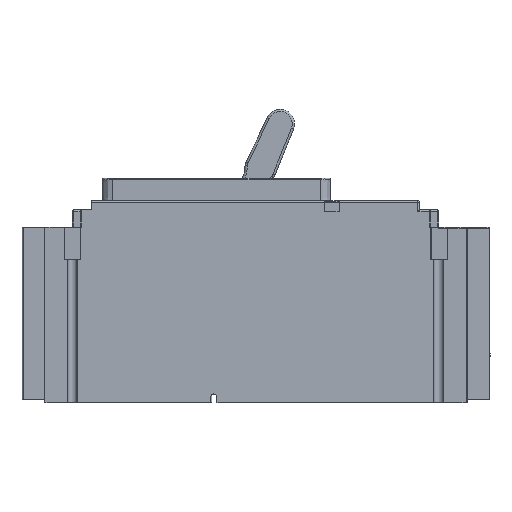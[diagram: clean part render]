
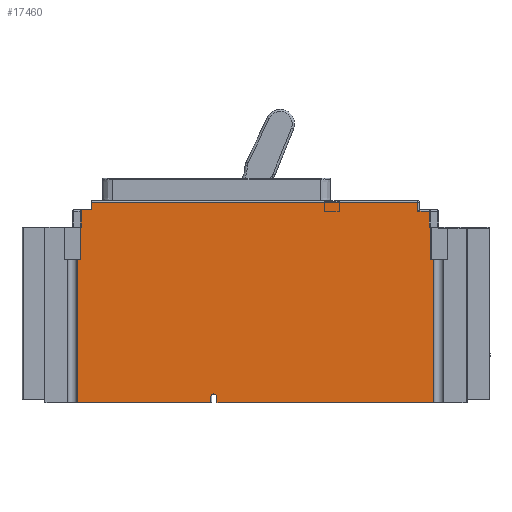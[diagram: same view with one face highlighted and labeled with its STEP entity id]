
A CAD part, left-side view. The second image highlights one B-rep face of the part: STEP entity #17460.
In plain terms, the highlighted planar face has unit normal (-1, 0, 0).
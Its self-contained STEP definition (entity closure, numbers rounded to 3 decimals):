
#208=DIRECTION('',(0.,-1.,0.));
#209=VECTOR('',#208,72.704);
#210=CARTESIAN_POINT('',(0.,224.954,0.));
#211=LINE('',#210,#209);
#458=DIRECTION('',(0.,-1.,0.));
#459=VECTOR('',#458,118.204);
#460=CARTESIAN_POINT('',(0.,148.75,0.));
#461=LINE('',#460,#459);
#480=CARTESIAN_POINT('',(0.,150.5,2.918));
#481=DIRECTION('',(1.,0.,0.));
#482=DIRECTION('',(0.,1.,0.));
#483=AXIS2_PLACEMENT_3D('',#480,#481,#482);
#513=DIRECTION('',(0.,0.,1.));
#514=VECTOR('',#513,8.7);
#515=CARTESIAN_POINT('',(0.,33.,95.5));
#516=LINE('',#515,#514);
#517=DIRECTION('',(0.,-1.,0.));
#518=VECTOR('',#517,0.5);
#519=CARTESIAN_POINT('',(0.,33.,95.5));
#520=LINE('',#519,#518);
#521=DIRECTION('',(0.,0.,1.));
#522=VECTOR('',#521,17.5);
#523=CARTESIAN_POINT('',(0.,32.5,78.));
#524=LINE('',#523,#522);
#525=DIRECTION('',(0.,0.,1.));
#526=VECTOR('',#525,2.918);
#527=CARTESIAN_POINT('',(0.,148.75,0.));
#528=LINE('',#527,#526);
#529=DIRECTION('',(0.,0.,1.));
#530=VECTOR('',#529,2.918);
#531=CARTESIAN_POINT('',(0.,152.25,0.));
#532=LINE('',#531,#530);
#533=DIRECTION('',(0.,0.,1.));
#534=VECTOR('',#533,78.);
#535=CARTESIAN_POINT('',(0.,224.954,0.));
#536=LINE('',#535,#534);
#537=DIRECTION('',(0.,-1.,0.));
#538=VECTOR('',#537,1.954);
#539=CARTESIAN_POINT('',(0.,224.954,78.));
#540=LINE('',#539,#538);
#541=DIRECTION('',(0.,0.,1.));
#542=VECTOR('',#541,17.5);
#543=CARTESIAN_POINT('',(0.,223.,78.));
#544=LINE('',#543,#542);
#545=DIRECTION('',(0.,-1.,0.));
#546=VECTOR('',#545,0.25);
#547=CARTESIAN_POINT('',(0.,223.,95.5));
#548=LINE('',#547,#546);
#549=DIRECTION('',(0.,0.,1.));
#550=VECTOR('',#549,8.7);
#551=CARTESIAN_POINT('',(0.,222.75,95.5));
#552=LINE('',#551,#550);
#553=CARTESIAN_POINT('',(0.,221.95,104.2));
#554=DIRECTION('',(-1.,0.,0.));
#555=DIRECTION('',(0.,0.,1.));
#556=AXIS2_PLACEMENT_3D('',#553,#554,#555);
#558=DIRECTION('',(0.,-1.,0.));
#559=VECTOR('',#558,4.643);
#560=CARTESIAN_POINT('',(0.,221.95,105.));
#561=LINE('',#560,#559);
#562=DIRECTION('',(0.,0.,-1.));
#563=VECTOR('',#562,4.2);
#564=CARTESIAN_POINT('',(0.,217.307,109.2));
#565=LINE('',#564,#563);
#566=DIRECTION('',(0.,1.,0.));
#567=VECTOR('',#566,178.007);
#568=CARTESIAN_POINT('',(0.,39.3,109.2));
#569=LINE('',#568,#567);
#570=DIRECTION('',(0.,0.,1.));
#571=VECTOR('',#570,5.);
#572=CARTESIAN_POINT('',(0.,39.3,104.2));
#573=LINE('',#572,#571);
#574=DIRECTION('',(0.,1.,0.));
#575=VECTOR('',#574,6.3);
#576=CARTESIAN_POINT('',(0.,33.,104.2));
#577=LINE('',#576,#575);
#3426=CARTESIAN_POINT('',(0.,33.,104.2));
#6263=DIRECTION('',(0.,0.,1.));
#6264=VECTOR('',#6263,78.);
#6265=CARTESIAN_POINT('',(0.,30.546,0.));
#6266=LINE('',#6265,#6264);
#6267=DIRECTION('',(0.,1.,0.));
#6268=VECTOR('',#6267,1.954);
#6269=CARTESIAN_POINT('',(0.,30.546,78.));
#6270=LINE('',#6269,#6268);
#13385=CARTESIAN_POINT('',(0.,30.546,0.));
#13387=VERTEX_POINT('',#13385);
#13403=CARTESIAN_POINT('',(0.,224.954,0.));
#13404=VERTEX_POINT('',#13403);
#13418=CARTESIAN_POINT('',(0.,217.307,105.));
#13420=VERTEX_POINT('',#13418);
#13458=CARTESIAN_POINT('',(0.,222.75,95.5));
#13459=VERTEX_POINT('',#13458);
#14157=CARTESIAN_POINT('',(0.,223.,78.));
#14158=VERTEX_POINT('',#14157);
#14169=CARTESIAN_POINT('',(0.,223.,95.5));
#14170=VERTEX_POINT('',#14169);
#16074=CARTESIAN_POINT('',(0.,148.75,2.918));
#16076=VERTEX_POINT('',#16074);
#16078=CARTESIAN_POINT('',(0.,152.25,2.918));
#16080=VERTEX_POINT('',#16078);
#16085=CARTESIAN_POINT('',(0.,148.75,0.));
#16087=VERTEX_POINT('',#16085);
#16089=CARTESIAN_POINT('',(0.,152.25,0.));
#16091=VERTEX_POINT('',#16089);
#16215=CARTESIAN_POINT('',(0.,39.3,104.2));
#16216=CARTESIAN_POINT('',(0.,39.3,109.2));
#16217=VERTEX_POINT('',#16215);
#16218=VERTEX_POINT('',#16216);
#16221=CARTESIAN_POINT('',(0.,217.307,109.2));
#16222=VERTEX_POINT('',#16221);
#16229=CARTESIAN_POINT('',(0.,221.95,105.));
#16230=CARTESIAN_POINT('',(0.,222.75,104.2));
#16231=VERTEX_POINT('',#16229);
#16232=VERTEX_POINT('',#16230);
#16728=CARTESIAN_POINT('',(0.,30.546,78.));
#16730=VERTEX_POINT('',#16728);
#16731=CARTESIAN_POINT('',(0.,224.954,78.));
#16732=VERTEX_POINT('',#16731);
#17019=VERTEX_POINT('',#3426);
#17020=CARTESIAN_POINT('',(0.,33.,95.5));
#17021=VERTEX_POINT('',#17020);
#17024=CARTESIAN_POINT('',(0.,32.5,95.5));
#17025=VERTEX_POINT('',#17024);
#17030=CARTESIAN_POINT('',(0.,32.5,78.));
#17031=VERTEX_POINT('',#17030);
#17416=CARTESIAN_POINT('',(0.,224.954,0.));
#17417=DIRECTION('',(-1.,0.,0.));
#17418=DIRECTION('',(0.,-1.,0.));
#17419=AXIS2_PLACEMENT_3D('',#17416,#17417,#17418);
#17420=PLANE('',#17419);
#17422=ORIENTED_EDGE('',*,*,#17421,.F.);
#17424=ORIENTED_EDGE('',*,*,#17423,.T.);
#17426=ORIENTED_EDGE('',*,*,#17425,.F.);
#17428=ORIENTED_EDGE('',*,*,#17427,.F.);
#17430=ORIENTED_EDGE('',*,*,#17429,.F.);
#17431=ORIENTED_EDGE('',*,*,#17342,.F.);
#17432=ORIENTED_EDGE('',*,*,#17409,.T.);
#17433=ORIENTED_EDGE('',*,*,#17374,.F.);
#17434=ORIENTED_EDGE('',*,*,#17361,.F.);
#17435=ORIENTED_EDGE('',*,*,#17206,.F.);
#17437=ORIENTED_EDGE('',*,*,#17436,.T.);
#17439=ORIENTED_EDGE('',*,*,#17438,.T.);
#17441=ORIENTED_EDGE('',*,*,#17440,.T.);
#17443=ORIENTED_EDGE('',*,*,#17442,.T.);
#17445=ORIENTED_EDGE('',*,*,#17444,.T.);
#17447=ORIENTED_EDGE('',*,*,#17446,.F.);
#17449=ORIENTED_EDGE('',*,*,#17448,.T.);
#17451=ORIENTED_EDGE('',*,*,#17450,.F.);
#17453=ORIENTED_EDGE('',*,*,#17452,.F.);
#17455=ORIENTED_EDGE('',*,*,#17454,.F.);
#17457=ORIENTED_EDGE('',*,*,#17456,.F.);
#17458=EDGE_LOOP('',(#17422,#17424,#17426,#17428,#17430,#17431,#17432,#17433,
#17434,#17435,#17437,#17439,#17441,#17443,#17445,#17447,#17449,#17451,#17453,
#17455,#17457));
#17459=FACE_OUTER_BOUND('',#17458,.F.);
#17460=ADVANCED_FACE('',(#17459),#17420,.T.);
#484=CIRCLE('',#483,1.75);
#557=CIRCLE('',#556,0.8);
#17206=EDGE_CURVE('',#13404,#16091,#211,.T.);
#17342=EDGE_CURVE('',#16087,#13387,#461,.T.);
#17361=EDGE_CURVE('',#16091,#16080,#532,.T.);
#17374=EDGE_CURVE('',#16080,#16076,#484,.T.);
#17409=EDGE_CURVE('',#16087,#16076,#528,.T.);
#17421=EDGE_CURVE('',#17021,#17019,#516,.T.);
#17423=EDGE_CURVE('',#17021,#17025,#520,.T.);
#17425=EDGE_CURVE('',#17031,#17025,#524,.T.);
#17427=EDGE_CURVE('',#16730,#17031,#6270,.T.);
#17429=EDGE_CURVE('',#13387,#16730,#6266,.T.);
#17436=EDGE_CURVE('',#13404,#16732,#536,.T.);
#17438=EDGE_CURVE('',#16732,#14158,#540,.T.);
#17440=EDGE_CURVE('',#14158,#14170,#544,.T.);
#17442=EDGE_CURVE('',#14170,#13459,#548,.T.);
#17444=EDGE_CURVE('',#13459,#16232,#552,.T.);
#17446=EDGE_CURVE('',#16231,#16232,#557,.T.);
#17448=EDGE_CURVE('',#16231,#13420,#561,.T.);
#17450=EDGE_CURVE('',#16222,#13420,#565,.T.);
#17452=EDGE_CURVE('',#16218,#16222,#569,.T.);
#17454=EDGE_CURVE('',#16217,#16218,#573,.T.);
#17456=EDGE_CURVE('',#17019,#16217,#577,.T.);
